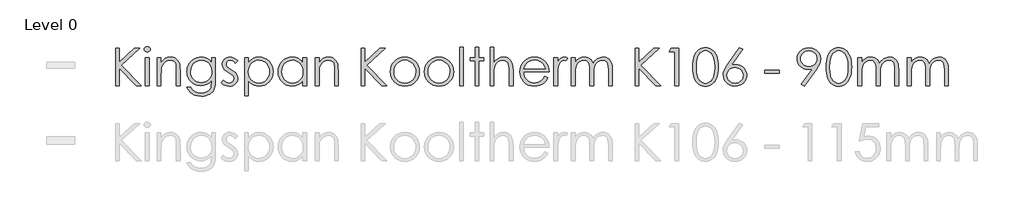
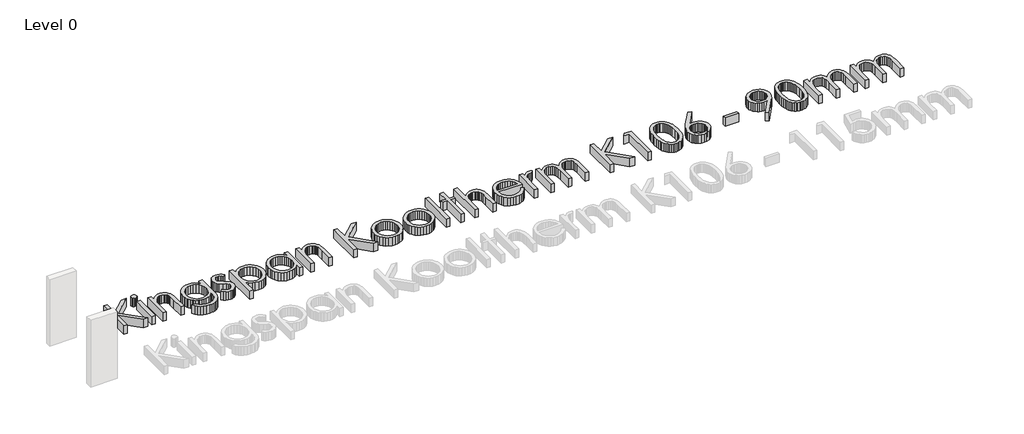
# One storey, part 2 of 2: 1 proxy.
"""IFC4 building model written with IfcOpenShell, lengths in millimetres."""

from ifc_helpers import new_model, si_unit, origin, origin_with_axes, place, context, project, spatial, polyline, outline, extrude, element, save

model = new_model("IFC4")

# Units and contexts
model_context = context("Model", 3, world=origin())
ifc_project = project(units=[si_unit("LENGTHUNIT", "METRE", prefix="MILLI")], contexts=[model_context])

# Site, building, storey
site = spatial("IfcSite", under=ifc_project)
building = spatial("IfcBuilding", under=site)
storey = spatial("IfcBuildingStorey", under=building, Name="Level 0", Elevation=0.0)

# Proxy
placement = place(None, origin())
element("IfcBuildingElementProxy", 1, Name="600mm KI_CenturyGothic", ObjectType="600mm KI_CenturyGothic", at=placement, inside=storey, context=model_context, shape_type="SweptSolid", body=[
    extrude(outline(polyline([(-3852.2663848, 5900.8965983), (-3792.944575, 5900.8965983), (-3792.944575, 5681.683973), (-3555.1938841, 5900.8965983), (-3471.6181051, 5900.8965983), (-3760.9664119, 5633.9484541), (-3441.9572002, 5307.6785001), (-3520.8984627, 5307.6785001), (-3792.944575, 5585.9039675), (-3792.944575, 5307.6785001), (-3852.2663848, 5307.6785001), (-3852.2663848, 5900.8965983)])), origin_with_axes(), (0.0, 0.0, 1.0), 150.0),
    extrude(outline(polyline([(-3348.1854852, 5930.5575033), (-3329.145347, 5927.2747208), (-3313.1176445, 5917.4263735), (-3302.226531, 5902.9821307), (-3298.5961598, 5885.911662), (-3302.226531, 5869.0729191), (-3313.1176445, 5854.7059183), (-3329.145347, 5844.857571), (-3348.1854852, 5841.5747885), (-3366.9938975, 5844.857571), (-3382.9443581, 5854.7059183), (-3393.8354717, 5869.0729191), (-3397.4658428, 5885.911662), (-3393.8354717, 5902.9821307), (-3382.9443581, 5917.4263735), (-3366.9938975, 5927.2747208), (-3348.1854852, 5930.5575033)])), origin_with_axes(), (0.0, 0.0, 1.0), 150.0),
    extrude(outline(polyline([(-3377.6919062, 5752.5920738), (-3318.3700964, 5752.5920738), (-3318.3700964, 5307.6785001), (-3377.6919062, 5307.6785001), (-3377.6919062, 5752.5920738)])), origin_with_axes(), (0.0, 0.0, 1.0), 150.0),
    extrude(outline(polyline([(-3189.8395084, 5752.5920738), (-3130.5176986, 5752.5920738), (-3130.5176986, 5673.4963274), (-3096.9946967, 5713.0055796), (-3060.0730495, 5740.696815), (-3019.7141359, 5757.0334853), (-2975.879335, 5762.4790421), (-2953.4357238, 5760.9004099), (-2932.2955704, 5756.1645135), (-2912.4588747, 5748.2713528), (-2893.9256368, 5737.2209277), (-2877.212412, 5723.4960006), (-2862.835756, 5707.5793333), (-2841.0921499, 5669.1707787), (-2833.6238199, 5644.7912914), (-2828.2892984, 5614.4448643), (-2824.0216812, 5535.8511905), (-2824.0216812, 5307.6785001), (-2883.343491, 5307.6785001), (-2883.343491, 5520.8662542), (-2883.343491, 5623.907002), (-2884.7290183, 5644.7043943), (-2889.8125035, 5662.7596977), (-2898.2849788, 5678.0729123), (-2910.1464442, 5690.644038), (-2924.7403432, 5700.4441091), (-2941.4101193, 5707.4441599), (-2980.977303, 5713.0442006), (-3005.3471351, 5710.8862539), (-3028.4038541, 5704.4124138), (-3050.1474602, 5693.6226803), (-3070.5779533, 5678.5170534), (-3088.6622225, 5660.2348518), (-3103.3671568, 5639.915394), (-3114.6927562, 5617.55868), (-3122.6390208, 5593.1647099), (-3128.5480292, 5546.0857475), (-3130.5176986, 5471.5858965), (-3130.5176986, 5307.6785001), (-3189.8395084, 5307.6785001), (-3189.8395084, 5752.5920738)])), origin_with_axes(), (0.0, 0.0, 1.0), 150.0),
    extrude(outline(polyline([(-2319.7862977, 5752.5920738), (-2260.4644879, 5752.5920738), (-2260.4644879, 5401.604699), (-2264.5196897, 5321.3503235), (-2269.588692, 5290.5500999), (-2276.6852953, 5265.9678526), (-2289.9371156, 5237.3545415), (-2307.2924139, 5212.2267729), (-2328.7511904, 5190.5845469), (-2354.3134448, 5172.4278634), (-2383.3226209, 5158.0656902), (-2415.122162, 5147.8069951), (-2449.7120682, 5141.651778), (-2487.0923395, 5139.6000389), (-2541.0458345, 5143.6166198), (-2589.206184, 5155.6663624), (-2630.260275, 5174.4940853), (-2662.8949946, 5198.8446068), (-2690.2000204, 5232.1938144), (-2715.2650299, 5278.0175952), (-2655.94322, 5278.0175952), (-2642.4355358, 5256.848476), (-2627.0933555, 5238.6048954), (-2609.9166791, 5223.2868532), (-2590.9055067, 5210.8943494), (-2569.7894914, 5201.3308318), (-2546.2982864, 5194.4997477), (-2492.1903075, 5189.0348805), (-2438.5071593, 5194.3645743), (-2415.083541, 5201.0266916), (-2393.93856, 5210.3536559), (-2359.6624492, 5234.3952097), (-2336.8567664, 5263.8823202), (-2329.3884364, 5282.5217658), (-2324.0539149, 5306.2302137), (-2319.7862977, 5368.8541165), (-2319.7862977, 5391.5632468), (-2354.757586, 5355.7809182), (-2396.6420279, 5329.3834852), (-2443.392712, 5313.1047464), (-2492.9627269, 5307.6785001), (-2522.4063889, 5309.5757553), (-2550.9521133, 5315.2675207), (-2578.5999001, 5324.7537964), (-2605.3497494, 5338.0345825), (-2630.1540674, 5354.5257366), (-2651.9652601, 5373.6431168), (-2670.7833277, 5395.3867228), (-2686.6082702, 5419.7565549), (-2699.1456025, 5446.0719183), (-2708.1008399, 5473.6521184), (-2713.4739824, 5502.4971553), (-2715.2650299, 5532.607029), (-2713.3967404, 5562.8955247), (-2707.7918722, 5592.1219437), (-2698.4504251, 5620.286286), (-2685.3723991, 5647.3885517), (-2668.9971079, 5672.5742517), (-2649.7638648, 5694.9888971), (-2627.67267, 5714.632488), (-2602.7235235, 5731.5050242), (-2575.9833294, 5745.056157), (-2548.5189922, 5754.7355376), (-2520.3305117, 5760.543166), (-2491.4178881, 5762.4790421), (-2444.5320306, 5757.5355579), (-2400.8903346, 5742.7051055), (-2359.6045177, 5716.1338782), (-2319.7862977, 5675.9680694), (-2319.7862977, 5752.5920738)]), holes=[polyline([(-2484.1571458, 5713.0442006), (-2529.0154023, 5707.0193293), (-2570.5908765, 5688.9447153), (-2606.2187212, 5660.2300242), (-2633.2340897, 5622.2849212), (-2650.2659375, 5578.0059792), (-2655.94322, 5530.2897708), (-2653.0080263, 5494.3770964), (-2644.2024452, 5461.7182387), (-2629.5264766, 5432.3131977), (-2608.9801206, 5406.1619734), (-2583.7606272, 5384.703197), (-2555.0652466, 5369.3754996), (-2522.8939786, 5360.1788811), (-2487.2468234, 5357.1133416), (-2451.3244937, 5360.154743), (-2419.1001219, 5369.2789472), (-2390.573708, 5384.4859541), (-2365.7452519, 5405.7757637), (-2345.6382095, 5432.0187128), (-2331.2760363, 5462.0851379), (-2322.6587323, 5495.975039), (-2319.7862977, 5533.6884162), (-2325.0773706, 5582.3894593), (-2340.9505892, 5625.6063246), (-2366.4983608, 5661.8327944), (-2400.8130926, 5689.5626508), (-2440.9982119, 5707.1738131), (-2484.1571458, 5713.0442006)])]), origin_with_axes(), (0.0, 0.0, 1.0), 150.0),
    extrude(outline(polyline([(-1904.5336289, 5701.3034257), (-1940.9918246, 5663.609359), (-1962.9575012, 5685.2371022), (-1984.6721416, 5700.6854902), (-2006.1357456, 5709.954523), (-2027.3483133, 5713.0442006), (-2052.181597, 5708.3710632), (-2073.2300256, 5694.3516511), (-2087.5970264, 5674.1142629), (-2092.3860267, 5650.787197), (-2088.4466878, 5629.2366958), (-2076.628671, 5608.7675817), (-2052.0657341, 5586.599145), (-2010.2006027, 5560.877579), (-1958.3326401, 5528.0111336), (-1939.8428507, 5512.1861912), (-1926.315856, 5496.7667689), (-1909.9791857, 5464.0934284), (-1904.5336289, 5427.5579908), (-1906.9474396, 5401.4115941), (-1914.1888714, 5377.3507299), (-1926.2579245, 5355.375398), (-1943.1545989, 5335.4855985), (-1963.6719892, 5318.9944443), (-1986.6031901, 5307.2150485), (-2011.9482016, 5300.147411), (-2039.7070237, 5297.7915318), (-2077.4397114, 5301.6729393), (-2113.3958344, 5313.3171617), (-2145.4512394, 5331.7972958), (-2171.4817731, 5356.1864383), (-2135.7959969, 5396.6612148), (-2114.0041146, 5375.0334717), (-2091.5749863, 5359.5850837), (-2068.5086121, 5350.3160509), (-2044.8049918, 5347.2263733), (-2013.637869, 5352.8650349), (-1987.4914724, 5369.7810198), (-1969.7644472, 5394.3439566), (-1963.8554388, 5422.9234744), (-1967.7561567, 5446.7139919), (-1979.4583106, 5467.7237995), (-2005.0253927, 5489.4287846), (-2050.2119275, 5516.2317378), (-2099.762632, 5546.8967879), (-2117.441381, 5562.0555186), (-2130.3890611, 5577.0983864), (-2146.3781427, 5609.2310334), (-2151.7078365, 5645.689229), (-2149.5305794, 5669.7356104), (-2142.9988078, 5691.6674937), (-2132.1125219, 5711.4848789), (-2116.8717217, 5729.187766), (-2098.309518, 5743.7526993), (-2077.4590218, 5754.1562231), (-2054.3202332, 5760.3983373), (-2028.8931521, 5762.4790421), (-1997.9481, 5758.6555661), (-1966.9064954, 5747.185138), (-1935.7683384, 5728.0677579), (-1904.5336289, 5701.3034257)])), origin_with_axes(), (0.0, 0.0, 1.0), 150.0),
    extrude(outline(polyline([(-1795.7769776, 5752.5920738), (-1736.4551678, 5752.5920738), (-1736.4551678, 5671.4880369), (-1700.9238754, 5711.7310876), (-1660.4490989, 5740.0788795), (-1614.9922173, 5756.8790014), (-1564.5146096, 5762.4790421), (-1520.0618732, 5758.2403906), (-1478.9305402, 5745.5244363), (-1441.1206107, 5724.331179), (-1406.6320845, 5694.6606189), (-1377.9077381, 5659.0231189), (-1357.3903478, 5619.929042), (-1345.0799137, 5577.3783884), (-1340.9764356, 5531.371158), (-1345.0412927, 5484.4708176), (-1357.235864, 5441.2491246), (-1377.5601494, 5401.706079), (-1406.014149, 5365.8416808), (-1440.2130179, 5336.0697406), (-1477.7719111, 5314.8040691), (-1518.6908288, 5302.0446661), (-1562.9697708, 5297.7915318), (-1612.6170277, 5303.256399), (-1658.0545988, 5319.6510008), (-1699.3211052, 5346.8980951), (-1736.4551678, 5384.92044), (-1736.4551678, 5149.4870072), (-1795.7769776, 5149.4870072), (-1795.7769776, 5752.5920738)]), holes=[polyline([(-1568.5311905, 5713.0442006), (-1602.5852307, 5709.7469353), (-1633.8392507, 5699.8551393), (-1662.2932503, 5683.3688128), (-1687.9472295, 5660.2879556), (-1709.1694525, 5632.3022353), (-1724.3281832, 5601.1013192), (-1733.4234216, 5566.6852074), (-1736.4551678, 5529.0538998), (-1731.048232, 5480.1983728), (-1714.8274246, 5436.5180558), (-1688.5265441, 5399.6736505), (-1652.8793888, 5371.3258586), (-1611.4390881, 5353.2512446), (-1567.7587711, 5347.2263733), (-1525.0632888, 5353.2898656), (-1485.0326535, 5371.4803424), (-1450.2544701, 5400.5812433), (-1423.3163435, 5439.3760076), (-1406.05277, 5484.0411593), (-1400.2982454, 5530.7532225), (-1405.9948385, 5577.6970114), (-1423.0846177, 5622.1304373), (-1449.8103289, 5660.4810605), (-1484.414718, 5689.1764411), (-1524.7157001, 5707.0772607), (-1568.5311905, 5713.0442006)])]), origin_with_axes(), (0.0, 0.0, 1.0), 150.0),
    extrude(outline(polyline([(-807.0801472, 5752.5920738), (-807.0801472, 5307.6785001), (-866.401957, 5307.6785001), (-866.401957, 5383.5300851), (-903.4780882, 5345.6815345), (-944.8797679, 5318.9558233), (-990.4525125, 5303.0826047), (-1040.0418379, 5297.7915318), (-1084.3159523, 5302.0446661), (-1125.2203871, 5314.8040691), (-1162.7551422, 5336.0697406), (-1196.9202178, 5365.8416808), (-1225.340424, 5401.706079), (-1245.6405713, 5441.2491246), (-1257.8206597, 5484.4708176), (-1261.8806892, 5531.371158), (-1257.7820388, 5577.3783884), (-1245.4860875, 5619.929042), (-1224.9928353, 5659.0231189), (-1196.3022822, 5694.6606189), (-1161.8475494, 5724.331179), (-1124.061758, 5745.5244363), (-1082.9449079, 5758.2403906), (-1038.4969991, 5762.4790421), (-987.7490446, 5756.8790014), (-942.0990581, 5740.0788795), (-921.2051134, 5727.3918909), (-901.6242816, 5711.7310876), (-866.401957, 5671.4880369), (-866.401957, 5752.5920738), (-807.0801472, 5752.5920738)]), holes=[polyline([(-1034.3259343, 5713.0442006), (-1078.1414247, 5707.0772607), (-1118.4424068, 5689.1764411), (-1153.0467959, 5660.4810605), (-1179.7725071, 5622.1304373), (-1196.8622863, 5577.6970114), (-1202.5588794, 5530.7532225), (-1196.8043548, 5484.0411593), (-1179.5407813, 5439.3760076), (-1152.6026548, 5400.5812433), (-1117.8244713, 5371.4803424), (-1077.6779731, 5353.2898656), (-1034.6349021, 5347.2263733), (-991.0125165, 5353.2512446), (-949.7460102, 5371.3258586), (-914.2726493, 5399.6736505), (-888.0297002, 5436.5180558), (-871.8088928, 5480.1983728), (-866.401957, 5529.0538998), (-869.4337032, 5566.6852074), (-878.5289416, 5601.1013192), (-893.6876723, 5632.3022353), (-914.9098953, 5660.2879556), (-940.5638746, 5683.3688128), (-969.0178742, 5699.8551393), (-1000.2718941, 5709.7469353), (-1034.3259343, 5713.0442006)])]), origin_with_axes(), (0.0, 0.0, 1.0), 150.0),
    extrude(outline(polyline([(-668.662591, 5752.5920738), (-609.3407811, 5752.5920738), (-609.3407811, 5673.4963274), (-575.8177792, 5713.0055796), (-538.896132, 5740.696815), (-498.5372184, 5757.0334853), (-454.7024175, 5762.4790421), (-432.2588064, 5760.9004099), (-411.1186529, 5756.1645135), (-391.2819572, 5748.2713528), (-372.7487193, 5737.2209277), (-356.0354946, 5723.4960006), (-341.6588385, 5707.5793333), (-319.9152324, 5669.1707787), (-312.4469024, 5644.7912914), (-307.1123809, 5614.4448643), (-302.8447637, 5535.8511905), (-302.8447637, 5307.6785001), (-362.1665735, 5307.6785001), (-362.1665735, 5520.8662542), (-362.1665735, 5623.907002), (-363.5521008, 5644.7043943), (-368.635586, 5662.7596977), (-377.1080613, 5678.0729123), (-388.9695267, 5690.644038), (-403.5634257, 5700.4441091), (-420.2332018, 5707.4441599), (-459.8003855, 5713.0442006), (-484.1702176, 5710.8862539), (-507.2269366, 5704.4124138), (-528.9705427, 5693.6226803), (-549.4010358, 5678.5170534), (-567.485305, 5660.2348518), (-582.1902393, 5639.915394), (-593.5158387, 5617.55868), (-601.4621033, 5593.1647099), (-607.3711117, 5546.0857475), (-609.3407811, 5471.5858965), (-609.3407811, 5307.6785001), (-668.662591, 5307.6785001), (-668.662591, 5752.5920738)])), origin_with_axes(), (0.0, 0.0, 1.0), 150.0),
    extrude(outline(polyline([(62.9730635, 5900.8965983), (122.2948734, 5900.8965983), (122.2948734, 5681.683973), (360.0455643, 5900.8965983), (443.6213432, 5900.8965983), (154.2730365, 5633.9484541), (473.2822481, 5307.6785001), (394.3409856, 5307.6785001), (122.2948734, 5585.9039675), (122.2948734, 5307.6785001), (62.9730635, 5307.6785001), (62.9730635, 5900.8965983)])), origin_with_axes(), (0.0, 0.0, 1.0), 150.0),
    extrude(outline(polyline([(760.1588128, 5762.4790421), (809.4681362, 5757.8541809), (854.3553585, 5743.9795975), (894.8204798, 5720.8552917), (930.8635, 5688.4812637), (957.7630055, 5653.2492839), (976.9769381, 5614.908316), (988.5052976, 5573.45836), (992.3480841, 5528.8994159), (988.283227, 5484.0846079), (976.0886558, 5442.1760279), (955.7643703, 5403.1736759), (927.3103707, 5367.0775519), (892.4742558, 5336.7649181), (853.0036246, 5315.1130368), (808.8984769, 5302.1219081), (760.1588128, 5297.7915318), (711.2839754, 5302.1219081), (667.0822753, 5315.1130368), (627.5537126, 5336.7649181), (592.6982872, 5367.0775519), (564.2442876, 5403.1736759), (543.9200022, 5442.1760279), (531.7254309, 5484.0846079), (527.6605738, 5528.8994159), (531.5033603, 5573.2652551), (543.0317198, 5614.5993482), (562.2456524, 5652.9016951), (589.145158, 5688.1722959), (625.2074886, 5720.6814974), (665.7305413, 5743.9023555), (710.7143161, 5757.8348705), (760.1588128, 5762.4790421)]), holes=[polyline([(760.004329, 5713.0442006), (725.7282181, 5709.6696933), (693.9624704, 5699.5461716), (664.7070856, 5682.6736353), (637.962064, 5659.0520846), (615.6584538, 5630.6415336), (599.7273037, 5599.4019965), (590.1686137, 5565.3334734), (586.9823836, 5528.4359643), (592.7948396, 5480.7004454), (610.2322075, 5436.3635719), (637.5758543, 5398.5729529), (673.1071466, 5370.4761972), (714.6439998, 5353.0388293), (760.004329, 5347.2263733), (805.3646581, 5353.0388293), (846.9015113, 5370.4761972), (882.4328037, 5398.5729529), (909.7764504, 5436.3635719), (927.2138183, 5480.7004454), (933.0262743, 5528.4359643), (929.8255614, 5565.3334734), (920.2234227, 5599.4019965), (904.2198583, 5630.6415336), (881.8148681, 5659.0520846), (854.9974321, 5682.6736353), (825.7565303, 5699.5461716), (794.0921625, 5709.6696933), (760.004329, 5713.0442006)])]), origin_with_axes(), (0.0, 0.0, 1.0), 150.0),
    extrude(outline(polyline([(1303.9420695, 5762.4790421), (1353.2513929, 5757.8541809), (1398.1386152, 5743.9795975), (1438.6037365, 5720.8552917), (1474.6467567, 5688.4812637), (1501.5462622, 5653.2492839), (1520.7601948, 5614.908316), (1532.2885543, 5573.45836), (1536.1313408, 5528.8994159), (1532.0664837, 5484.0846079), (1519.8719125, 5442.1760279), (1499.547627, 5403.1736759), (1471.0936274, 5367.0775519), (1436.2575126, 5336.7649181), (1396.7868813, 5315.1130368), (1352.6817336, 5302.1219081), (1303.9420695, 5297.7915318), (1255.0672321, 5302.1219081), (1210.865532, 5315.1130368), (1171.3369693, 5336.7649181), (1136.4815439, 5367.0775519), (1108.0275443, 5403.1736759), (1087.7032589, 5442.1760279), (1075.5086876, 5484.0846079), (1071.4438305, 5528.8994159), (1075.286617, 5573.2652551), (1086.8149766, 5614.5993482), (1106.0289091, 5652.9016951), (1132.9284147, 5688.1722959), (1168.9907453, 5720.6814974), (1209.5137981, 5743.9023555), (1254.4975728, 5757.8348705), (1303.9420695, 5762.4790421)]), holes=[polyline([(1303.7875857, 5713.0442006), (1269.5114748, 5709.6696933), (1237.7457271, 5699.5461716), (1208.4903423, 5682.6736353), (1181.7453207, 5659.0520846), (1159.4417105, 5630.6415336), (1143.5105604, 5599.4019965), (1133.9518704, 5565.3334734), (1130.7656404, 5528.4359643), (1136.5780963, 5480.7004454), (1154.0154643, 5436.3635719), (1181.359111, 5398.5729529), (1216.8904033, 5370.4761972), (1258.4272565, 5353.0388293), (1303.7875857, 5347.2263733), (1349.1479149, 5353.0388293), (1390.684768, 5370.4761972), (1426.2160604, 5398.5729529), (1453.5597071, 5436.3635719), (1470.997075, 5480.7004454), (1476.809531, 5528.4359643), (1473.6088181, 5565.3334734), (1464.0066795, 5599.4019965), (1448.003115, 5630.6415336), (1425.5981249, 5659.0520846), (1398.7806889, 5682.6736353), (1369.539787, 5699.5461716), (1337.8754193, 5709.6696933), (1303.7875857, 5713.0442006)])]), origin_with_axes(), (0.0, 0.0, 1.0), 150.0),
    extrude(outline(polyline([(1635.0010238, 5920.6705349), (1694.3228337, 5920.6705349), (1694.3228337, 5307.6785001), (1635.0010238, 5307.6785001), (1635.0010238, 5920.6705349)])), origin_with_axes(), (0.0, 0.0, 1.0), 150.0),
    extrude(outline(polyline([(1882.1752314, 5920.6705349), (1941.4970413, 5920.6705349), (1941.4970413, 5752.5920738), (2020.5927877, 5752.5920738), (2020.5927877, 5703.1572323), (1941.4970413, 5703.1572323), (1941.4970413, 5307.6785001), (1882.1752314, 5307.6785001), (1882.1752314, 5703.1572323), (1803.079485, 5703.1572323), (1803.079485, 5752.5920738), (1882.1752314, 5752.5920738), (1882.1752314, 5920.6705349)])), origin_with_axes(), (0.0, 0.0, 1.0), 150.0),
    extrude(outline(polyline([(2119.4624707, 5920.6705349), (2178.7842806, 5920.6705349), (2178.7842806, 5671.9514886), (2212.5583188, 5711.6538456), (2249.6151394, 5739.9243956), (2289.9161216, 5756.8403805), (2333.4226442, 5762.4790421), (2355.8662553, 5760.9004099), (2377.0064088, 5756.1645135), (2396.8431044, 5748.2713528), (2415.3763424, 5737.2209277), (2432.0895671, 5723.5104834), (2446.4662232, 5707.6372648), (2468.2098293, 5669.4025045), (2475.6781593, 5645.0954316), (2481.0126808, 5614.7345216), (2485.280298, 5535.8511905), (2485.280298, 5307.6785001), (2425.9584882, 5307.6785001), (2425.9584882, 5520.8662542), (2424.5681332, 5585.247411), (2420.3970685, 5623.907002), (2406.879729, 5662.7596977), (2397.1665551, 5678.0729123), (2385.4837117, 5690.644038), (2371.840854, 5700.4441091), (2356.2476374, 5707.4441599), (2319.2101273, 5713.0442006), (2296.3416854, 5710.8862539), (2274.6994594, 5704.4124138), (2254.2834492, 5693.6226803), (2235.0936547, 5678.5170534), (2218.1052556, 5660.2348518), (2204.2934312, 5639.915394), (2193.6581816, 5617.55868), (2186.1995068, 5593.1647099), (2180.6380871, 5546.3174733), (2178.7842806, 5471.5858965), (2178.7842806, 5307.6785001), (2119.4624707, 5307.6785001), (2119.4624707, 5920.6705349)])), origin_with_axes(), (0.0, 0.0, 1.0), 150.0),
    extrude(outline(polyline([(2991.0605203, 5455.9830247), (3038.950523, 5430.8021523), (3013.3255094, 5388.9177104), (2984.0315038, 5355.9547125), (2950.952643, 5330.8703926), (2913.9730643, 5312.6219843), (2872.4941426, 5301.4991449), (2825.9172528, 5297.7915318), (2774.4258447, 5302.2232881), (2728.8627554, 5315.518557), (2689.227985, 5337.6773385), (2655.5215335, 5368.6996326), (2628.6220279, 5405.3026569), (2609.4080954, 5444.2036288), (2597.8797358, 5485.4025485), (2594.0369493, 5528.8994159), (2597.3197318, 5569.7797126), (2607.1680791, 5608.381372), (2623.5819913, 5644.7043943), (2646.5614684, 5678.7487793), (2682.7493173, 5715.3807692), (2724.5758277, 5741.5464764), (2772.0409998, 5757.2459007), (2825.1448334, 5762.4790421), (2879.7935059, 5757.1107273), (2928.6490329, 5741.0057828), (2971.7114143, 5714.1642087), (3008.9806503, 5676.5860049), (3030.4539096, 5644.414737), (3045.9022976, 5608.458614), (3055.3258143, 5568.7176359), (3058.7244596, 5525.1918028), (2653.3587591, 5525.1918028), (2657.095338, 5487.9370497), (2666.6057518, 5454.1871496), (2681.8900007, 5423.9421025), (2702.9480845, 5397.2019084), (2728.3124066, 5375.3376118), (2756.5153699, 5359.7202571), (2787.5569744, 5350.3498443), (2821.4372203, 5347.2263733), (2854.9602222, 5350.238809), (2887.5563208, 5359.2761159), (2917.2944677, 5373.3148385), (2942.2436143, 5391.331521), (2965.725164, 5417.4972281), (2991.0605203, 5455.9830247)]), holes=[polyline([(2999.4026498, 5574.6266443), (2984.9777175, 5617.1483322), (2965.1844704, 5650.1692615), (2939.0766947, 5675.6977226), (2905.7081767, 5695.742006), (2867.7630738, 5708.7186519), (2827.9255433, 5713.0442006), (2795.503239, 5710.3310774), (2765.4368139, 5702.191708), (2737.726268, 5688.6260923), (2712.3716012, 5669.6342304), (2695.8321708, 5651.820308), (2681.4362043, 5630.0477362), (2669.1837016, 5604.316515), (2659.0746627, 5574.6266443), (2999.4026498, 5574.6266443)])]), origin_with_axes(), (0.0, 0.0, 1.0), 150.0),
    extrude(outline(polyline([(3137.820206, 5752.5920738), (3197.1420159, 5752.5920738), (3197.1420159, 5688.1722959), (3222.6897875, 5721.2125357), (3249.589293, 5744.3271862), (3277.7632906, 5757.9410781), (3307.1345382, 5762.4790421), (3330.4616041, 5758.694187), (3355.3335087, 5747.3396219), (3325.8270877, 5705.3200066), (3297.2475699, 5713.0442006), (3270.8308265, 5707.0965712), (3245.3409863, 5689.2536831), (3223.2884125, 5658.8976007), (3207.183468, 5615.4103886), (3199.6523789, 5557.2858288), (3197.1420159, 5459.8451217), (3197.1420159, 5307.6785001), (3137.820206, 5307.6785001), (3137.820206, 5752.5920738)])), origin_with_axes(), (0.0, 0.0, 1.0), 150.0),
    extrude(outline(polyline([(3414.6553185, 5752.5920738), (3473.9771284, 5752.5920738), (3473.9771284, 5676.4315211), (3503.5607913, 5712.9283377), (3533.9168737, 5738.0705891), (3577.3268439, 5756.3769288), (3622.8995884, 5762.4790421), (3653.7384329, 5759.331433), (3682.9165757, 5749.8886059), (3708.6767627, 5735.2126373), (3729.2617397, 5716.365604), (3746.0425511, 5690.9336953), (3760.3902414, 5656.5031006), (3775.16759, 5680.9018983), (3791.6925376, 5702.191708), (3809.965084, 5720.3725296), (3829.9852293, 5735.4443631), (3851.2798666, 5747.2720352), (3873.375889, 5755.7203723), (3896.2732965, 5760.7893747), (3919.9720892, 5762.4790421), (3962.3006723, 5756.6665861), (3981.4952943, 5749.4010161), (3999.3768034, 5739.2292182), (4015.4914031, 5726.46016), (4029.385297, 5711.4028093), (4050.5109676, 5674.4232306), (4057.8103309, 5651.0478886), (4063.0241619, 5622.4780261), (4067.1952266, 5549.7547397), (4067.1952266, 5307.6785001), (4007.8734168, 5307.6785001), (4007.8734168, 5553.3078689), (4005.4209852, 5614.4255538), (3998.0636904, 5652.8727294), (3984.7587663, 5677.3391139), (3964.4634466, 5696.5144254), (3938.3942919, 5708.9117568), (3907.7678627, 5713.0442006), (3888.1194443, 5711.4945341), (3869.3399976, 5706.8455349), (3834.3880198, 5688.2495379), (3805.6540182, 5659.3031209), (3785.8800816, 5622.0531954), (3779.1889985, 5597.8957787), (3774.4096535, 5566.8252084), (3770.5861775, 5483.9446069), (3770.5861775, 5307.6785001), (3711.2643677, 5307.6785001), (3711.2643677, 5538.0139648), (3708.850557, 5606.469634), (3701.6091252, 5648.7016647), (3688.3621325, 5674.9446137), (3667.9316394, 5695.4330383), (3641.6114484, 5708.64141), (3610.6953619, 5713.0442006), (3573.7544042, 5707.0000188), (3539.2465676, 5688.8674734), (3510.2808401, 5660.500371), (3489.9662099, 5623.7525181), (3477.9743988, 5571.9231764), (3473.9771284, 5498.3116077), (3473.9771284, 5307.6785001), (3414.6553185, 5307.6785001), (3414.6553185, 5752.5920738)])), origin_with_axes(), (0.0, 0.0, 1.0), 150.0),
    extrude(outline(polyline([(4433.0130538, 5900.8965983), (4492.3348637, 5900.8965983), (4492.3348637, 5681.683973), (4730.0855546, 5900.8965983), (4813.6613335, 5900.8965983), (4524.3130268, 5633.9484541), (4843.3222385, 5307.6785001), (4764.3809759, 5307.6785001), (4492.3348637, 5585.9039675), (4492.3348637, 5307.6785001), (4433.0130538, 5307.6785001), (4433.0130538, 5900.8965983)])), origin_with_axes(), (0.0, 0.0, 1.0), 150.0),
    extrude(outline(polyline([(5010.6282802, 5900.8965983), (5125.1008351, 5900.8965983), (5125.1008351, 5307.6785001), (5065.7790253, 5307.6785001), (5065.7790253, 5851.4617568), (4976.7963106, 5851.4617568), (5010.6282802, 5900.8965983)])), origin_with_axes(), (0.0, 0.0, 1.0), 150.0),
    extrude(outline(polyline([(5352.5011061, 5604.1330653), (5354.0797383, 5658.5644948), (5358.8156347, 5706.4593252), (5366.7087954, 5747.8175564), (5377.7592204, 5782.6391884), (5391.6869077, 5812.2807828), (5408.2118552, 5838.0989012), (5427.334063, 5860.0935436), (5449.053531, 5878.26471), (5472.747496, 5892.4917098), (5497.793195, 5902.6538525), (5524.190628, 5908.7511381), (5551.9397949, 5910.7835666), (5580.1427582, 5908.7366552), (5606.974677, 5902.595921), (5632.4355515, 5892.361364), (5656.5253815, 5878.0329841), (5678.7083011, 5859.6156091), (5698.4484443, 5837.1140665), (5715.7458112, 5810.5283563), (5730.6004018, 5779.8584786), (5742.5294539, 5744.3416691), (5751.0502054, 5703.2151637), (5756.1626563, 5656.4789625), (5757.8668066, 5604.1330653), (5756.1867944, 5551.9464797), (5751.1467578, 5505.3792452), (5742.7466968, 5464.4313618), (5730.9866115, 5429.1028296), (5716.2768496, 5398.5777805), (5699.0277589, 5372.0403465), (5679.2393394, 5349.4905277), (5656.9115912, 5330.928324), (5632.6527944, 5316.4309774), (5607.0712295, 5306.0757299), (5580.1668963, 5299.8625813), (5551.9397949, 5297.7915318), (5524.2147661, 5299.7998222), (5497.8897474, 5305.8246936), (5472.964739, 5315.8661457), (5449.4397407, 5329.9241788), (5427.8651013, 5347.9601718), (5408.7911698, 5369.9355036), (5392.2179461, 5395.8501745), (5378.1454301, 5425.7041842), (5366.9260384, 5460.7237487), (5358.9121871, 5502.1350837), (5354.1038764, 5549.9381893), (5352.5011061, 5604.1330653)]), holes=[polyline([(5411.8229159, 5604.2875492), (5416.206396, 5515.961391), (5421.6857461, 5480.9804475), (5429.3568363, 5452.1209277), (5439.1713903, 5427.8814414), (5451.0811319, 5406.7605985), (5465.0860611, 5388.7583989), (5481.1861779, 5373.8748426), (5516.4857445, 5353.8884906), (5534.8886366, 5348.8919027), (5553.7936014, 5347.2263733), (5572.7854634, 5348.8581093), (5591.1400794, 5353.7533172), (5625.9375733, 5373.334149), (5641.694929, 5388.0101176), (5655.4439943, 5405.9302476), (5667.1847692, 5427.0945392), (5676.9172536, 5451.5029922), (5686.3793912, 5484.8618549), (5693.138061, 5521.4455687), (5698.5449967, 5604.2875492), (5693.7173755, 5685.8936587), (5687.682849, 5720.5849449), (5679.2345118, 5751.2017189), (5668.652366, 5777.864671), (5656.2164137, 5800.6944918), (5641.9266548, 5819.6911814), (5625.7830894, 5834.8547397), (5590.7152487, 5854.7252288), (5572.4861509, 5859.692851), (5553.7936014, 5861.3487251), (5534.7776014, 5859.692851), (5516.3505711, 5854.7252288), (5481.2634199, 5834.8547397), (5465.3177869, 5820.0435978), (5451.3900996, 5802.1041572), (5439.480358, 5781.0364181), (5429.5885621, 5756.8403805), (5421.8160919, 5727.9856883), (5416.2643275, 5692.9419857), (5411.8229159, 5604.2875492)])]), origin_with_axes(), (0.0, 0.0, 1.0), 150.0),
    extrude(outline(polyline([(6094.0237289, 5910.7835666), (6146.3937641, 5885.1392426), (5970.2821412, 5639.0464222), (6032.8481125, 5643.8354224), (6068.9683747, 5640.7650553), (6102.2499955, 5631.553954), (6132.6929751, 5616.2021184), (6160.2973133, 5594.7095487), (6183.2092037, 5568.7272912), (6199.5748397, 5539.9063923), (6209.3942213, 5508.2468522), (6212.6673485, 5473.7486708), (6211.1369926, 5449.6974618), (6206.5459248, 5426.8241924), (6198.8941451, 5405.1288625), (6188.1816536, 5384.6114722), (6174.6594865, 5365.7065074), (6158.5786802, 5348.8484541), (6118.7411497, 5321.2730815), (6072.048397, 5303.6619192), (6021.8797571, 5297.7915318), (5973.5069922, 5303.6426087), (5928.8032195, 5321.1958396), (5908.5175551, 5334.0807607), (5890.5298383, 5349.3312162), (5874.8400693, 5366.9472061), (5861.4482479, 5386.9287304), (5843.0839767, 5430.7635313), (5836.962553, 5477.6107678), (5840.786029, 5514.5517256), (5852.2564571, 5553.3851108), (5873.5752325, 5597.2006012), (5906.9437505, 5649.0878744), (6094.0237289, 5910.7835666)]), holes=[polyline([(6020.1804344, 5594.4005809), (5993.903692, 5592.1412542), (5970.2242098, 5585.363274), (5949.1419878, 5574.0666402), (5930.6570261, 5558.2513531), (5915.6189859, 5539.2208701), (5904.8775286, 5518.2786492), (5898.4326543, 5495.4246902), (5896.2843628, 5470.6589932), (5898.6354144, 5446.0284697), (5905.688569, 5423.2710631), (5917.4438267, 5402.3867736), (5933.9011875, 5383.3756012), (5953.689607, 5367.560314), (5975.4380407, 5356.2636803), (5999.1464886, 5349.4857001), (6024.8149508, 5347.2263733), (6050.4834129, 5349.4857001), (6074.1918608, 5356.2636803), (6095.9402945, 5367.560314), (6115.728714, 5383.3756012), (6132.1860748, 5402.3867736), (6143.9413325, 5423.2710631), (6150.9944872, 5446.0284697), (6153.3455387, 5470.6589932), (6150.90759, 5495.4246902), (6143.5937438, 5518.2786492), (6131.4040002, 5539.2208701), (6114.3383591, 5558.2513531), (6093.8257964, 5574.0666402), (6071.2952881, 5585.363274), (6046.7468341, 5592.1412542), (6020.1804344, 5594.4005809)])]), origin_with_axes(), (0.0, 0.0, 1.0), 150.0),
    extrude(outline(polyline([(6499.3894294, 5554.8527077), (6726.7897004, 5554.8527077), (6726.7897004, 5505.4178662), (6499.3894294, 5505.4178662), (6499.3894294, 5554.8527077)])), origin_with_axes(), (0.0, 0.0, 1.0), 150.0),
    extrude(outline(polyline([(7132.1554008, 5297.7915318), (7081.1757205, 5325.4441463), (7254.5066336, 5570.6100634), (7192.24963, 5564.739676), (7156.3514385, 5567.8100431), (7123.2725777, 5577.0211444), (7093.0130478, 5592.37298), (7065.5728486, 5613.8655498), (7042.7961316, 5639.8478073), (7026.527048, 5668.6687061), (7016.7655979, 5700.3282462), (7013.5117812, 5734.8264276), (7015.0421371, 5758.8631538), (7019.6332049, 5781.6929746), (7027.2849846, 5803.3158902), (7037.9974761, 5823.7319004), (7051.5196432, 5842.549968), (7067.6004496, 5859.3790557), (7107.4379801, 5887.0702911), (7154.0148698, 5904.8552478), (7203.835921, 5910.7835666), (7252.5562746, 5904.9518002), (7297.3759102, 5887.4565008), (7317.6615747, 5874.6246835), (7335.6492914, 5859.4562976), (7351.3390604, 5841.951343), (7364.7308818, 5822.1098197), (7383.095153, 5778.7384704), (7389.2165767, 5732.6636533), (7385.3931007, 5695.819248), (7373.9226726, 5657.27552), (7352.6038972, 5613.8655498), (7319.2353792, 5562.4224178), (7132.1554008, 5297.7915318)]), holes=[polyline([(7204.7628243, 5614.1745175), (7231.0154286, 5616.4386719), (7254.7769804, 5623.231135), (7276.0474796, 5634.5519068), (7294.8269262, 5650.4009873), (7310.1691065, 5669.4459531), (7321.1278067, 5690.3543807), (7327.7030268, 5713.1262701), (7329.8947669, 5737.7616213), (7327.5437153, 5762.3969725), (7320.4905607, 5785.1688619), (7308.735303, 5806.0772895), (7292.2779422, 5825.1222553), (7272.4798675, 5840.9713359), (7250.702468, 5852.2921077), (7226.9457439, 5859.0845708), (7201.2096951, 5861.3487251), (7175.6088196, 5859.0845708), (7151.9486479, 5852.2921077), (7130.2291799, 5840.9713359), (7110.4504157, 5825.1222553), (7093.9930549, 5806.0772895), (7082.2377972, 5785.1688619), (7075.1846425, 5762.3969725), (7072.833591, 5737.7616213), (7075.2474016, 5713.1262701), (7082.4888335, 5690.3543807), (7094.5578866, 5669.4459531), (7111.4545609, 5650.4009873), (7131.7691911, 5634.5519068), (7154.0921117, 5623.231135), (7178.4233228, 5616.4386719), (7204.7628243, 5614.1745175)])]), origin_with_axes(), (0.0, 0.0, 1.0), 150.0),
    extrude(outline(polyline([(7478.1992914, 5604.1330653), (7479.7779236, 5658.5644948), (7484.51382, 5706.4593252), (7492.4069808, 5747.8175564), (7503.4574058, 5782.6391884), (7517.3850931, 5812.2807828), (7533.9100406, 5838.0989012), (7553.0322483, 5860.0935436), (7574.7517163, 5878.26471), (7598.4456813, 5892.4917098), (7623.4913804, 5902.6538525), (7649.8888133, 5908.7511381), (7677.6379802, 5910.7835666), (7705.8409435, 5908.7366552), (7732.6728624, 5902.595921), (7758.1337368, 5892.361364), (7782.2235668, 5878.0329841), (7804.4064864, 5859.6156091), (7824.1466297, 5837.1140665), (7841.4439966, 5810.5283563), (7856.2985871, 5779.8584786), (7868.2276392, 5744.3416691), (7876.7483907, 5703.2151637), (7881.8608416, 5656.4789625), (7883.5649919, 5604.1330653), (7881.8849797, 5551.9464797), (7876.8449431, 5505.3792452), (7868.4448822, 5464.4313618), (7856.6847968, 5429.1028296), (7841.9750349, 5398.5777805), (7824.7259442, 5372.0403465), (7804.9375247, 5349.4905277), (7782.6097765, 5330.928324), (7758.3509797, 5316.4309774), (7732.7694148, 5306.0757299), (7705.8650816, 5299.8625813), (7677.6379802, 5297.7915318), (7649.9129514, 5299.7998222), (7623.5879328, 5305.8246936), (7598.6629243, 5315.8661457), (7575.137926, 5329.9241788), (7553.5632867, 5347.9601718), (7534.4893551, 5369.9355036), (7517.9161314, 5395.8501745), (7503.8436155, 5425.7041842), (7492.6242237, 5460.7237487), (7484.6103725, 5502.1350837), (7479.8020617, 5549.9381893), (7478.1992914, 5604.1330653)]), holes=[polyline([(7537.5211013, 5604.2875492), (7541.9045814, 5515.961391), (7547.3839315, 5480.9804475), (7555.0550216, 5452.1209277), (7564.8695756, 5427.8814414), (7576.7793172, 5406.7605985), (7590.7842464, 5388.7583989), (7606.8843633, 5373.8748426), (7642.1839298, 5353.8884906), (7660.586822, 5348.8919027), (7679.4917868, 5347.2263733), (7698.4836487, 5348.8581093), (7716.8382647, 5353.7533172), (7751.6357586, 5373.334149), (7767.3931143, 5388.0101176), (7781.1421796, 5405.9302476), (7792.8829545, 5427.0945392), (7802.6154389, 5451.5029922), (7812.0775766, 5484.8618549), (7818.8362463, 5521.4455687), (7824.2431821, 5604.2875492), (7819.4155608, 5685.8936587), (7813.3810343, 5720.5849449), (7804.9326971, 5751.2017189), (7794.3505514, 5777.864671), (7781.914599, 5800.6944918), (7767.6248402, 5819.6911814), (7751.4812747, 5834.8547397), (7716.413434, 5854.7252288), (7698.1843362, 5859.692851), (7679.4917868, 5861.3487251), (7660.4757867, 5859.692851), (7642.0487564, 5854.7252288), (7606.9616052, 5834.8547397), (7591.0159723, 5820.0435978), (7577.088285, 5802.1041572), (7565.1785434, 5781.0364181), (7555.2867474, 5756.8403805), (7547.5142772, 5727.9856883), (7541.9625128, 5692.9419857), (7537.5211013, 5604.2875492)])]), origin_with_axes(), (0.0, 0.0, 1.0), 150.0),
    extrude(outline(polyline([(7982.4346749, 5752.5920738), (8041.7564848, 5752.5920738), (8041.7564848, 5676.4315211), (8071.3401477, 5712.9283377), (8101.6962301, 5738.0705891), (8145.1062003, 5756.3769288), (8190.6789448, 5762.4790421), (8221.5177893, 5759.331433), (8250.6959321, 5749.8886059), (8276.4561191, 5735.2126373), (8297.0410961, 5716.365604), (8313.8219075, 5690.9336953), (8328.1695978, 5656.5031006), (8342.9469464, 5680.9018983), (8359.471894, 5702.191708), (8377.7444404, 5720.3725296), (8397.7645856, 5735.4443631), (8419.0592229, 5747.2720352), (8441.1552454, 5755.7203723), (8464.0526529, 5760.7893747), (8487.7514456, 5762.4790421), (8530.0800287, 5756.6665861), (8549.2746507, 5749.4010161), (8567.1561598, 5739.2292182), (8583.2707595, 5726.46016), (8597.1646534, 5711.4028093), (8618.290324, 5674.4232306), (8625.5896873, 5651.0478886), (8630.8035182, 5622.4780261), (8634.974583, 5549.7547397), (8634.974583, 5307.6785001), (8575.6527732, 5307.6785001), (8575.6527732, 5553.3078689), (8573.2003416, 5614.4255538), (8565.8430468, 5652.8727294), (8552.5381227, 5677.3391139), (8532.242803, 5696.5144254), (8506.1736483, 5708.9117568), (8475.5472191, 5713.0442006), (8455.8988006, 5711.4945341), (8437.119354, 5706.8455349), (8402.1673762, 5688.2495379), (8373.4333746, 5659.3031209), (8353.659438, 5622.0531954), (8346.9683549, 5597.8957787), (8342.1890099, 5566.8252084), (8338.3655339, 5483.9446069), (8338.3655339, 5307.6785001), (8279.0437241, 5307.6785001), (8279.0437241, 5538.0139648), (8276.6299134, 5606.469634), (8269.3884816, 5648.7016647), (8256.1414889, 5674.9446137), (8235.7109958, 5695.4330383), (8209.3908048, 5708.64141), (8178.4747183, 5713.0442006), (8141.5337606, 5707.0000188), (8107.025924, 5688.8674734), (8078.0601965, 5660.500371), (8057.7455663, 5623.7525181), (8045.7537552, 5571.9231764), (8041.7564848, 5498.3116077), (8041.7564848, 5307.6785001), (7982.4346749, 5307.6785001), (7982.4346749, 5752.5920738)])), origin_with_axes(), (0.0, 0.0, 1.0), 150.0),
    extrude(outline(polyline([(8773.3921393, 5752.5920738), (8832.7139491, 5752.5920738), (8832.7139491, 5676.4315211), (8862.2976121, 5712.9283377), (8892.6536944, 5738.0705891), (8936.0636646, 5756.3769288), (8981.6364092, 5762.4790421), (9012.4752537, 5759.331433), (9041.6533964, 5749.8886059), (9067.4135834, 5735.2126373), (9087.9985604, 5716.365604), (9104.7793718, 5690.9336953), (9119.1270621, 5656.5031006), (9133.9044108, 5680.9018983), (9150.4293583, 5702.191708), (9168.7019047, 5720.3725296), (9188.72205, 5735.4443631), (9210.0166873, 5747.2720352), (9232.1127097, 5755.7203723), (9255.0101172, 5760.7893747), (9278.7089099, 5762.4790421), (9321.037493, 5756.6665861), (9340.232115, 5749.4010161), (9358.1136241, 5739.2292182), (9374.2282238, 5726.46016), (9388.1221177, 5711.4028093), (9409.2477883, 5674.4232306), (9416.5471516, 5651.0478886), (9421.7609826, 5622.4780261), (9425.9320473, 5549.7547397), (9425.9320473, 5307.6785001), (9366.6102375, 5307.6785001), (9366.6102375, 5553.3078689), (9364.1578059, 5614.4255538), (9356.8005111, 5652.8727294), (9343.495587, 5677.3391139), (9323.2002673, 5696.5144254), (9297.1311126, 5708.9117568), (9266.5046834, 5713.0442006), (9246.856265, 5711.4945341), (9228.0768183, 5706.8455349), (9193.1248405, 5688.2495379), (9164.3908389, 5659.3031209), (9144.6169023, 5622.0531954), (9137.9258192, 5597.8957787), (9133.1464742, 5566.8252084), (9129.3229982, 5483.9446069), (9129.3229982, 5307.6785001), (9070.0011884, 5307.6785001), (9070.0011884, 5538.0139648), (9067.5873778, 5606.469634), (9060.3459459, 5648.7016647), (9047.0989532, 5674.9446137), (9026.6684601, 5695.4330383), (9000.3482691, 5708.64141), (8969.4321827, 5713.0442006), (8932.4912249, 5707.0000188), (8897.9833883, 5688.8674734), (8869.0176608, 5660.500371), (8848.7030306, 5623.7525181), (8836.7112195, 5571.9231764), (8832.7139491, 5498.3116077), (8832.7139491, 5307.6785001), (8773.3921393, 5307.6785001), (8773.3921393, 5752.5920738)])), origin_with_axes(), (0.0, 0.0, 1.0), 150.0),
])

save(model, "model.ifc")
